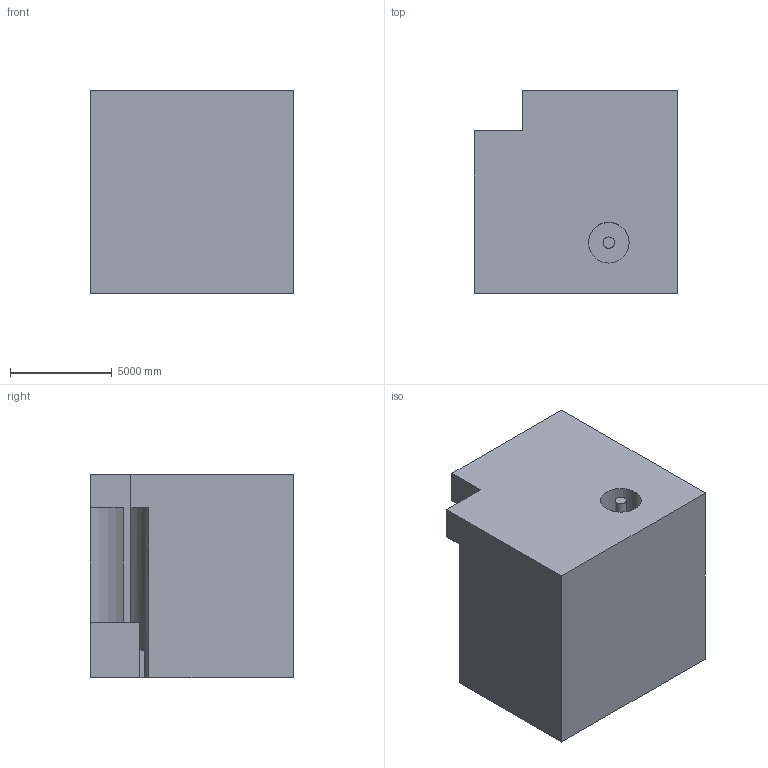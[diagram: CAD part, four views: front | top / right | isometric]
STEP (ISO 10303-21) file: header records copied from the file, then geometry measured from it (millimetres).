
FILE_DESCRIPTION (( 'STEP AP203' ), '1' );
FILE_NAME ('1413.STEP', '2022-08-18T14:19:47', ( 'user' ), ( '' ), 'SwSTEP 2.0', 'SolidWorks 2021', '' );
FILE_SCHEMA (( 'CONFIG_CONTROL_DESIGN' ));
Length unit declared in the file: centimetre
Products named in the file (1): 1413
Bounding box: 10000 x 10000 x 10000 mm (x, y, z)
Volume: 903759937828.5 mm3; surface area: 616153646.2 mm2
Topology: 1 solids, 1 shells, 24 faces, 60 edges, 40 vertices
Faces by surface type: plane 18, cylinder 6
Entity records: 795 total; most frequent: CARTESIAN_POINT 125, DIRECTION 124, ORIENTED_EDGE 120, EDGE_CURVE 60, VECTOR 46, LINE 46, VERTEX_POINT 40, AXIS2_PLACEMENT_3D 39
